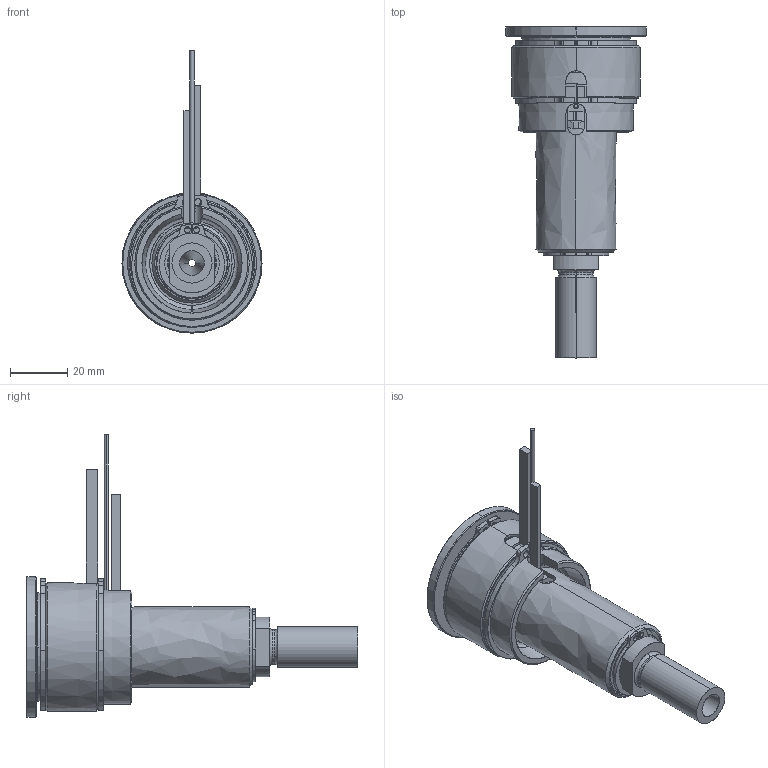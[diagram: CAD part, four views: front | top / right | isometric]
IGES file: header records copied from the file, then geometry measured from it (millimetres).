
Start section: SolidWorks IGES file using analytic representation for surfaces
Global section: file name: C:\Documents and Settings\ws-20\Desktop\TEM\UGBE4501-S-A-P-5 [Ød-2.5 P-25 ØC-09].IGS; native system: SolidWorks 2012; preprocessor: SolidWorks 2012; author: ws-20; date: 120412.152915; units: millimetre
Bounding box: 49 x 116 x 98.65 mm (x, y, z)
Surface area: 41289.6 mm2 (no closed solid volume)
Topology: 0 solids, 0 shells, 169 faces, 3229 edges, 3229 vertices
Faces by surface type: revolution 107, bspline 62
